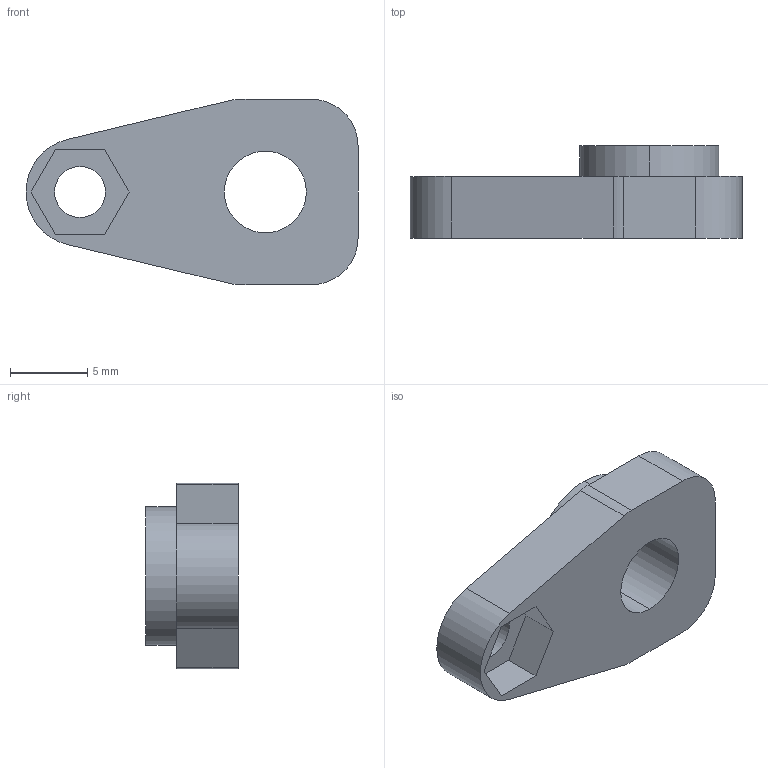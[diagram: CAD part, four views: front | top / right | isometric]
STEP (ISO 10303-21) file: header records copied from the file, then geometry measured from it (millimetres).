
FILE_DESCRIPTION (( 'STEP AP214' ), '1' );
FILE_NAME ('SKRpicoSupport.STEP', '2026-06-12T19:46:51', ( '' ), ( '' ), 'SwSTEP 2.0', 'SolidWorks 2010', '' );
FILE_SCHEMA (( 'AUTOMOTIVE_DESIGN' ));
Length unit declared in the file: millimetre
Products named in the file (1): SKRpicoSupport
Bounding box: 21.5 x 6 x 12 mm (x, y, z)
Volume: 746.2 mm3; surface area: 801.3 mm2
Topology: 1 solids, 1 shells, 26 faces, 66 edges, 44 vertices
Faces by surface type: plane 15, cylinder 11
Entity records: 834 total; most frequent: DIRECTION 142, CARTESIAN_POINT 137, ORIENTED_EDGE 132, EDGE_CURVE 66, AXIS2_PLACEMENT_3D 49, LINE 44, VECTOR 44, VERTEX_POINT 44
